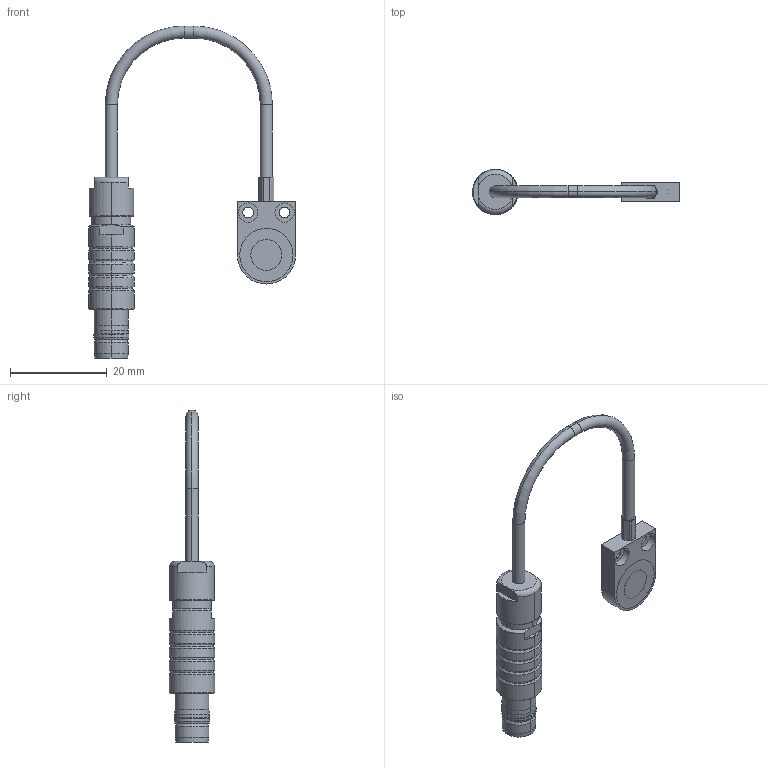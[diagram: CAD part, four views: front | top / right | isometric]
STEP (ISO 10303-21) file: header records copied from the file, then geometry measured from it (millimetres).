
FILE_DESCRIPTION((''),'2;1');
FILE_NAME('6610077-A_ASM','2009-07-30T',('11000065'),(''),'PRO/ENGINEER BY PARAMETRIC TECHNOLOGY CORPORATION, 2008490','PRO/ENGINEER BY PARAMETRIC TECHNOLOGY CORPORATION, 2008490','');
FILE_SCHEMA(('AUTOMOTIVE_DESIGN { 1 2 10303 214 0 1 1 1 }'));
Length unit declared in the file: millimetre
Products named in the file (3): CSH1_2FL_AF0; 0323139_AF0; 6610077-A_ASM
Assembly tree (2 placements, depth 2):
  6610077-A_ASM
    CSH1_2FL_AF0
    0323139_AF0
Bounding box: 42.7 x 9.4 x 68.51 mm (x, y, z)
Volume: 3103.7 mm3; surface area: 2673.6 mm2
Topology: 2 solids, 2 shells, 491 faces, 1305 edges, 848 vertices
Faces by surface type: plane 380, cylinder 57, torus 26, cone 26, bspline 2
Entity records: 19551 total; most frequent: CARTESIAN_POINT 2848, ORIENTED_EDGE 2610, DIRECTION 2457, PRESENTATION_STYLE_ASSIGNMENT 1333, STYLED_ITEM 1308, CURVE_STYLE 1305, EDGE_CURVE 1305, VECTOR 1109
